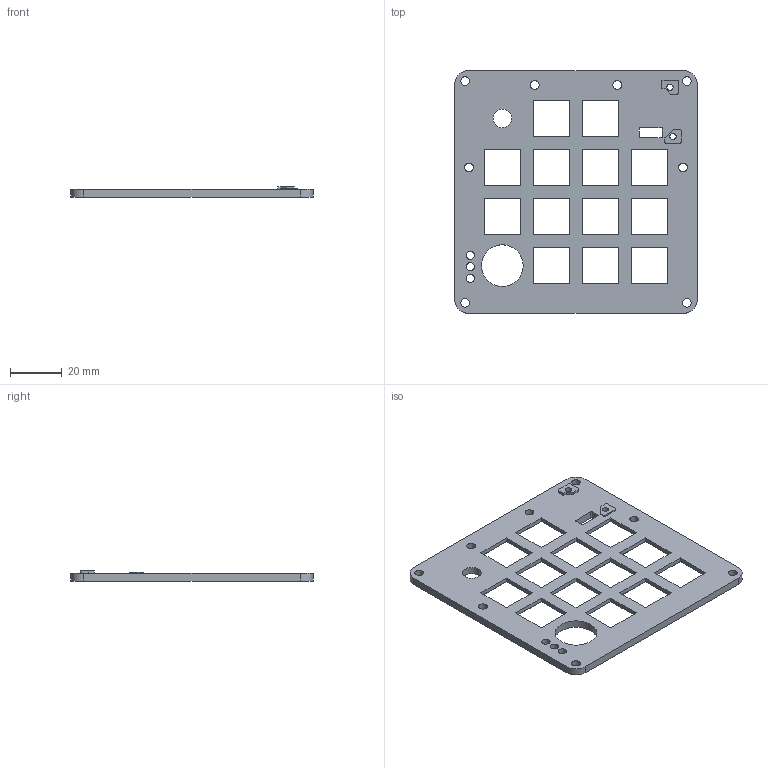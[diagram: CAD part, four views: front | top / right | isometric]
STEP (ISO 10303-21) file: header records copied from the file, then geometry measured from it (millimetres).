
FILE_DESCRIPTION(('Open CASCADE Model'),'2;1');
FILE_NAME('Open CASCADE Shape Model','2026-09-15T08:23:08',('Author'),( 'Open CASCADE'),'Open CASCADE STEP processor 7.9','Open CASCADE 7.9' ,'Unknown');
FILE_SCHEMA(('AUTOMOTIVE_DESIGN { 1 0 10303 214 1 1 1 1 }'));
Length unit declared in the file: millimetre
Products named in the file (1): Open CASCADE STEP translator 7.9 3
Bounding box: 94 x 94 x 4 mm (x, y, z)
Volume: 16032.4 mm3; surface area: 15929.7 mm2
Topology: 1 solids, 1 shells, 175 faces, 471 edges, 314 vertices
Faces by surface type: plane 146, cylinder 29
Full cylindrical faces by diameter (mm): 2.4 x2, 3.2 x3, 3.4 x8, 7.2 x1, 16.2 x1
Entity records: 11792 total; most frequent: CARTESIAN_POINT 2143, DIRECTION 1783, LINE 1297, VECTOR 1297, ORIENTED_EDGE 942, PCURVE 942, DEFINITIONAL_REPRESENTATION 942, EDGE_CURVE 471
